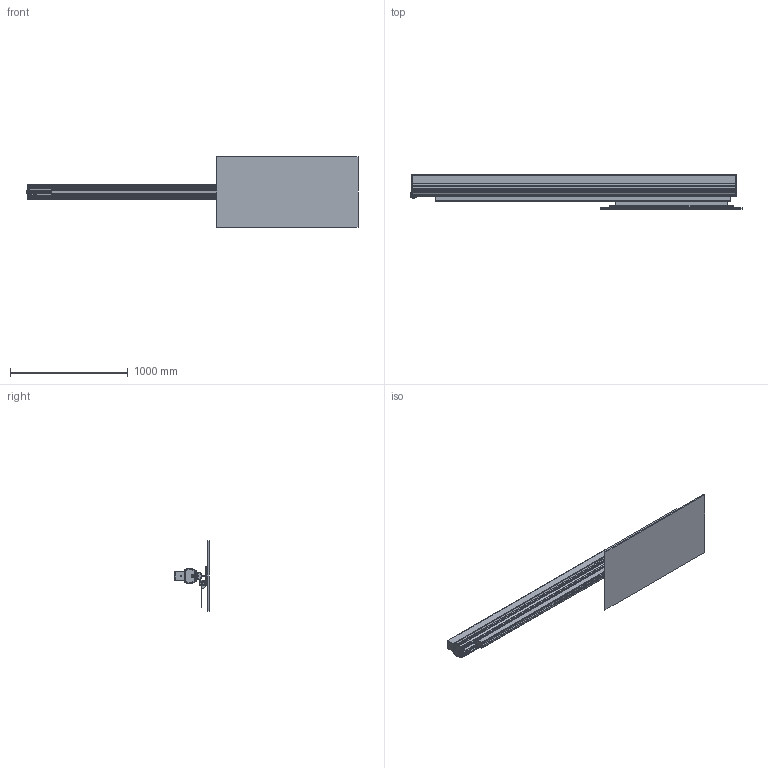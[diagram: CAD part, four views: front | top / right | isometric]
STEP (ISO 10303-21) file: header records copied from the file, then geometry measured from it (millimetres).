
FILE_DESCRIPTION (( 'STEP AP214' ), '1' );
FILE_NAME ('PS1000_LRP_BG.STEP', '2026-02-10T07:44:02', ( '' ), ( '' ), 'SwSTEP 2.0', 'SolidWorks 2024', '' );
FILE_SCHEMA (( 'AUTOMOTIVE_DESIGN' ));
Length unit declared in the file: millimetre
Products named in the file (17): PS_LRP_Boden; Motorkonsole LIVI PS; PS 10 GP Unterteil; PS 10 Mittelplatte; MGD3-EDR; MGD3 ED; ALS - 1m; MGD1-EDR; MOTORKONSOLE LIVI PS__2; MOTORKONSOLE LIVI PS__1; PS 10 GP; ALSQ - 1m; PS1000_LRP_BG; MGD1 ED; MOTORKONSOLE LIVI PS__3; PROFILSCHLITTEN 10; PS 10_LS1260x1500
Assembly tree (18 placements, depth 3):
  PS1000_LRP_BG
    PS_LRP_Boden
    PROFILSCHLITTEN 10
      PS 10_LS1260x1500
      PS 10 GP Unterteil  x2
      PS 10 GP
      PS 10 Mittelplatte
    Motorkonsole LIVI PS
      MOTORKONSOLE LIVI PS__3
      MOTORKONSOLE LIVI PS__1  x2
      MOTORKONSOLE LIVI PS__2
    ALS - 1m
    ALSQ - 1m
    MGD1 ED
    MGD1-EDR
    MGD3 ED
    MGD3-EDR
Bounding box: 2822.57 x 290.03 x 600 mm (x, y, z)
Volume: 27958773.5 mm3; surface area: 11951076.1 mm2
Topology: 24 solids, 24 shells, 938 faces, 2641 edges, 1759 vertices
Faces by surface type: plane 515, cylinder 395, bspline 24, cone 4
Full cylindrical faces by diameter (mm): 4.2 x1, 4.917 x8, 5 x8, 6.5 x16, 6.8 x3, 8 x12, 8.15 x4, 8.4 x4, 8.5 x2, 11 x2, 12 x2, 13.835 x8, 16 x4, 58 x2
Entity records: 30190 total; most frequent: CARTESIAN_POINT 5863, DIRECTION 4921, ORIENTED_EDGE 4868, EDGE_CURVE 2434, VERTEX_POINT 1670, AXIS2_PLACEMENT_3D 1645, VECTOR 1631, LINE 1631
